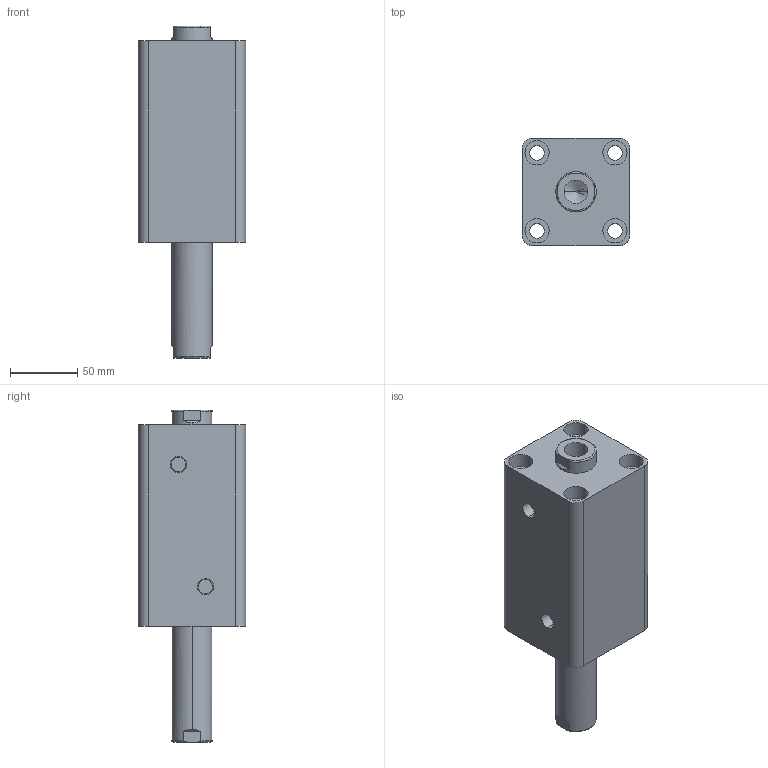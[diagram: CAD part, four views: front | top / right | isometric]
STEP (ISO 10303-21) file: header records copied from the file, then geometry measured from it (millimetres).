
FILE_DESCRIPTION (( 'STEP AP203' ), '1' );
FILE_NAME ('HTB-SW50-75N.STEP', '2019-10-07T09:23:41', ( '微软用户' ), ( '微软中国' ), 'SwSTEP 2.0', 'SolidWorks 2012', '' );
FILE_SCHEMA (( 'CONFIG_CONTROL_DESIGN' ));
Length unit declared in the file: millimetre
Products named in the file (3): HTB-SW50-75N; HTB-SW50-75N活塞杆; HTB-SW50-75掛极
Assembly tree (2 placements, depth 2):
  HTB-SW50-75N
    HTB-SW50-75掛极
    HTB-SW50-75N活塞杆
Bounding box: 80 x 80 x 247 mm (x, y, z)
Volume: 839647.2 mm3; surface area: 133730.2 mm2
Topology: 2 solids, 2 shells, 100 faces, 228 edges, 146 vertices
Faces by surface type: cylinder 48, plane 32, torus 12, cone 8
Entity records: 3237 total; most frequent: CARTESIAN_POINT 595, DIRECTION 542, ORIENTED_EDGE 448, AXIS2_PLACEMENT_3D 229, EDGE_CURVE 224, VERTEX_POINT 146, EDGE_LOOP 128, CIRCLE 124
